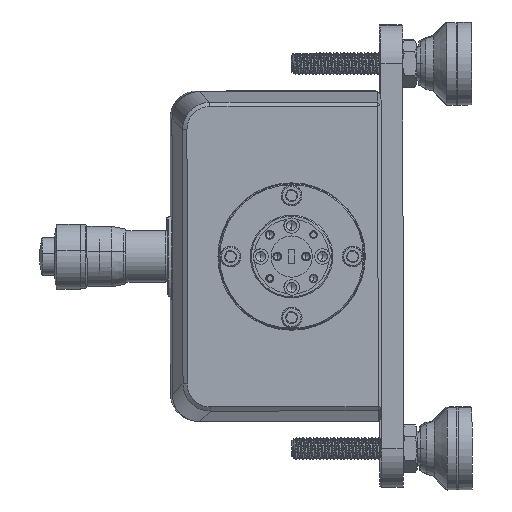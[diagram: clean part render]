
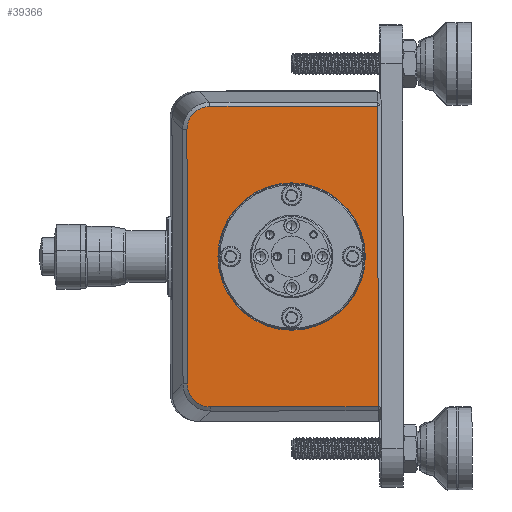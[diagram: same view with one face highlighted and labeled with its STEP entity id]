
A CAD part, left-side view. The second image highlights one B-rep face of the part: STEP entity #39366.
In plain terms, the highlighted planar face has unit normal (-1, -0.002, -0.001).
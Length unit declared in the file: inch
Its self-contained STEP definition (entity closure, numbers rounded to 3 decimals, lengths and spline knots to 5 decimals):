
#629 = ORIENTED_EDGE ( 'NONE', *, *, #58146, .T. ) ;
#936 = CIRCLE ( 'NONE', #50974, 0.67 ) ;
#2222 = VERTEX_POINT ( 'NONE', #5107 ) ;
#2853 = EDGE_LOOP ( 'NONE', ( #22510, #8825 ) ) ;
#3448 = EDGE_CURVE ( 'NONE', #3971, #2222, #64129, .T. ) ;
#3755 = LINE ( 'NONE', #51409, #6798 ) ;
#3971 = VERTEX_POINT ( 'NONE', #40643 ) ;
#5107 = CARTESIAN_POINT ( 'NONE',  ( -3.34337, -7.6161, -0.64819 ) ) ;
#5489 = EDGE_CURVE ( 'NONE', #110926, #84426, #97939, .T. ) ;
#6136 = CARTESIAN_POINT ( 'NONE',  ( -3.34513, -6.67076, -0.10827 ) ) ;
#6798 = VECTOR ( 'NONE', #87123, 39.37008 ) ;
#6827 = VERTEX_POINT ( 'NONE', #117696 ) ;
#8825 = ORIENTED_EDGE ( 'NONE', *, *, #3448, .F. ) ;
#11614 = CARTESIAN_POINT ( 'NONE',  ( -3.34302, -7.61697, -1.31819 ) ) ;
#14165 = CARTESIAN_POINT ( 'NONE',  ( -3.34347, -6.87759, -2.68423 ) ) ;
#14573 = EDGE_CURVE ( 'NONE', #2222, #3971, #936, .T. ) ;
#15803 = AXIS2_PLACEMENT_3D ( 'NONE', #106335, #23548, #88262 ) ;
#16348 = CARTESIAN_POINT ( 'NONE',  ( -3.34512, -6.66536, -0.13572 ) ) ;
#16897 = ORIENTED_EDGE ( 'NONE', *, *, #80317, .T. ) ;
#18473 = VERTEX_POINT ( 'NONE', #84659 ) ;
#19905 = CARTESIAN_POINT ( 'NONE',  ( -3.34489, -6.87405, 0.04592 ) ) ;
#21088 = LINE ( 'NONE', #28933, #113759 ) ;
#22116 = CARTESIAN_POINT ( 'NONE',  ( -3.34377, -6.71028, -2.60422 ) ) ;
#22353 = ORIENTED_EDGE ( 'NONE', *, *, #76073, .T. ) ;
#22422 = CARTESIAN_POINT ( 'NONE',  ( -3.34323, -7.48197, -1.31837 ) ) ;
#22510 = ORIENTED_EDGE ( 'NONE', *, *, #14573, .F. ) ;
#23300 = CARTESIAN_POINT ( 'NONE',  ( -3.34365, -6.77209, -2.65813 ) ) ;
#23548 = DIRECTION ( 'NONE',  ( -1., -0.002, -0.001 ) ) ;
#25420 = CARTESIAN_POINT ( 'NONE',  ( -3.34511, -6.6654, -0.16327 ) ) ;
#27215 = CARTESIAN_POINT ( 'NONE',  ( -3.34507, -6.74541, 0.00403 ) ) ;
#27656 = B_SPLINE_CURVE_WITH_KNOTS ( 'NONE', 3,
 ( #30492, #104907, #86787, #67495, #22116, #69280, #23300, #60193, #97067, #14165 ),
 .UNSPECIFIED., .F., .F.,
 ( 4, 2, 2, 2, 4 ),
 ( 0., 0.25, 0.5, 0.75, 1. ),
 .UNSPECIFIED. ) ;
#28933 = CARTESIAN_POINT ( 'NONE',  ( -3.3418, -8.40197, -1.31717 ) ) ;
#30492 = CARTESIAN_POINT ( 'NONE',  ( -3.34391, -6.6684, -2.47558 ) ) ;
#32577 = DIRECTION ( 'NONE',  ( 0.002, -1., 0.001 ) ) ;
#35082 = VERTEX_POINT ( 'NONE', #59689 ) ;
#38872 = VECTOR ( 'NONE', #32577, 39.37008 ) ;
#39366 = ADVANCED_FACE ( 'NONE', ( #116061, #88907 ), #117265, .F. ) ;
#40643 = CARTESIAN_POINT ( 'NONE',  ( -3.34267, -7.61784, -1.98819 ) ) ;
#49598 = DIRECTION ( 'NONE',  ( -0.002, 1., -0.001 ) ) ;
#50846 = ORIENTED_EDGE ( 'NONE', *, *, #93319, .T. ) ;
#50974 = AXIS2_PLACEMENT_3D ( 'NONE', #11614, #78173, #105289 ) ;
#51409 = CARTESIAN_POINT ( 'NONE',  ( -3.34451, -6.6669, -1.31942 ) ) ;
#52643 = CARTESIAN_POINT ( 'NONE',  ( -3.34511, -6.70695, -0.03451 ) ) ;
#58146 = EDGE_CURVE ( 'NONE', #84426, #35082, #3755, .T. ) ;
#59342 = DIRECTION ( 'NONE',  ( 1., 0.002, 0.001 ) ) ;
#59689 = CARTESIAN_POINT ( 'NONE',  ( -3.34391, -6.6684, -2.47558 ) ) ;
#60193 = CARTESIAN_POINT ( 'NONE',  ( -3.34356, -6.82259, -2.67887 ) ) ;
#62956 = CARTESIAN_POINT ( 'NONE',  ( -3.34494, -6.84656, 0.04589 ) ) ;
#64129 = CIRCLE ( 'NONE', #15803, 0.67 ) ;
#67495 = CARTESIAN_POINT ( 'NONE',  ( -3.34381, -6.69476, -2.58101 ) ) ;
#69280 = CARTESIAN_POINT ( 'NONE',  ( -3.34369, -6.74883, -2.64268 ) ) ;
#73281 = CARTESIAN_POINT ( 'NONE',  ( -3.34489, -6.87405, 0.04592 ) ) ;
#76073 = EDGE_CURVE ( 'NONE', #103375, #18473, #21088, .T. ) ;
#76462 = ORIENTED_EDGE ( 'NONE', *, *, #80324, .T. ) ;
#78132 = LINE ( 'NONE', #114891, #91101 ) ;
#78173 = DIRECTION ( 'NONE',  ( -1., -0.002, -0.001 ) ) ;
#80317 = EDGE_CURVE ( 'NONE', #18473, #110926, #78132, .T. ) ;
#80324 = EDGE_CURVE ( 'NONE', #6827, #103375, #86536, .T. ) ;
#84426 = VERTEX_POINT ( 'NONE', #99767 ) ;
#84659 = CARTESIAN_POINT ( 'NONE',  ( -3.34251, -8.4002, 0.0479 ) ) ;
#86536 = LINE ( 'NONE', #95041, #38872 ) ;
#86787 = CARTESIAN_POINT ( 'NONE',  ( -3.34387, -6.6739, -2.53056 ) ) ;
#87123 = DIRECTION ( 'NONE',  ( 0.001, -0.001, -1. ) ) ;
#88262 = DIRECTION ( 'NONE',  ( -0.001, 0.001, 1. ) ) ;
#88907 = FACE_BOUND ( 'NONE', #2853, .T. ) ;
#88965 = CARTESIAN_POINT ( 'NONE',  ( -3.34512, -6.6915, -0.05777 ) ) ;
#89221 = EDGE_LOOP ( 'NONE', ( #50846, #76462, #22353, #16897, #116025, #629 ) ) ;
#90146 = AXIS2_PLACEMENT_3D ( 'NONE', #22422, #59342, #96220 ) ;
#90772 = CARTESIAN_POINT ( 'NONE',  ( -3.34498, -6.81907, 0.04042 ) ) ;
#91101 = VECTOR ( 'NONE', #49598, 39.37008 ) ;
#93319 = EDGE_CURVE ( 'NONE', #35082, #6827, #27656, .T. ) ;
#95041 = CARTESIAN_POINT ( 'NONE',  ( -3.34252, -7.48374, -2.68344 ) ) ;
#96220 = DIRECTION ( 'NONE',  ( 0.001, -0.001, -1. ) ) ;
#97067 = CARTESIAN_POINT ( 'NONE',  ( -3.34351, -6.85004, -2.68427 ) ) ;
#97939 = B_SPLINE_CURVE_WITH_KNOTS ( 'NONE', 3,
 ( #73281, #62956, #90772, #110058, #27215, #52643, #88965, #6136, #16348, #25420 ),
 .UNSPECIFIED., .F., .F.,
 ( 4, 2, 2, 2, 4 ),
 ( 0., 0.25, 0.5, 0.75, 1. ),
 .UNSPECIFIED. ) ;
#99767 = CARTESIAN_POINT ( 'NONE',  ( -3.34511, -6.6654, -0.16327 ) ) ;
#101586 = DIRECTION ( 'NONE',  ( -0.001, 0.001, 1. ) ) ;
#103375 = VERTEX_POINT ( 'NONE', #103865 ) ;
#103865 = CARTESIAN_POINT ( 'NONE',  ( -3.34109, -8.40374, -2.68225 ) ) ;
#104907 = CARTESIAN_POINT ( 'NONE',  ( -3.34389, -6.66843, -2.50307 ) ) ;
#105289 = DIRECTION ( 'NONE',  ( -0.001, 0.001, 1. ) ) ;
#106335 = CARTESIAN_POINT ( 'NONE',  ( -3.34302, -7.61697, -1.31819 ) ) ;
#110058 = CARTESIAN_POINT ( 'NONE',  ( -3.34504, -6.76862, 0.01956 ) ) ;
#110926 = VERTEX_POINT ( 'NONE', #19905 ) ;
#113759 = VECTOR ( 'NONE', #101586, 39.37008 ) ;
#114891 = CARTESIAN_POINT ( 'NONE',  ( -3.34394, -7.4802, 0.04671 ) ) ;
#116025 = ORIENTED_EDGE ( 'NONE', *, *, #5489, .T. ) ;
#116061 = FACE_OUTER_BOUND ( 'NONE', #89221, .T. ) ;
#117265 = PLANE ( 'NONE',  #90146 ) ;
#117696 = CARTESIAN_POINT ( 'NONE',  ( -3.34347, -6.87759, -2.68423 ) ) ;
